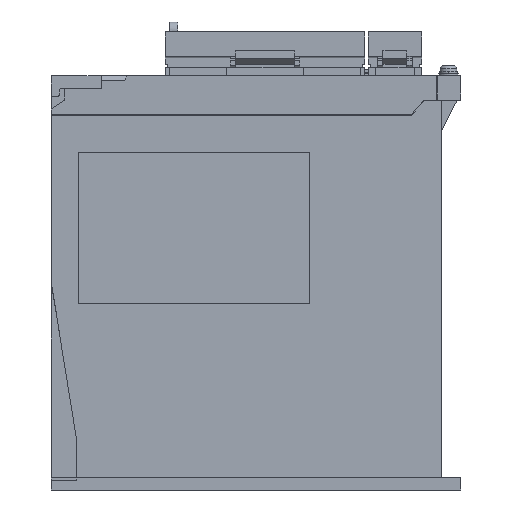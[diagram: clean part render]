
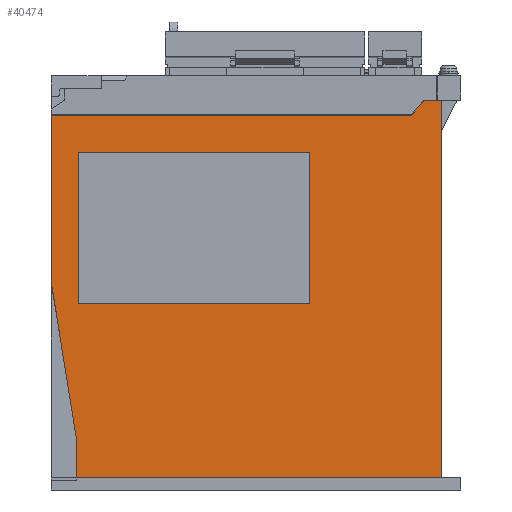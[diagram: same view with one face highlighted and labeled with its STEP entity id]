
A CAD part, left-side view. The second image highlights one B-rep face of the part: STEP entity #40474.
In plain terms, the highlighted planar face has unit normal (-1, 0, 0).
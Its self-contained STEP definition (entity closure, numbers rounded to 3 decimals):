
#10925=DIRECTION('',(0.,0.,1.));
#10926=VECTOR('',#10925,154.6);
#10927=CARTESIAN_POINT('',(0.,0.,5.2));
#10928=LINE('',#10927,#10926);
#11073=DIRECTION('',(0.,1.,0.));
#11074=VECTOR('',#11073,147.831);
#11075=CARTESIAN_POINT('',(0.,12.169,153.8));
#11076=LINE('',#11075,#11074);
#11401=DIRECTION('',(0.,1.,0.));
#11402=VECTOR('',#11401,149.5);
#11403=CARTESIAN_POINT('',(0.,0.,5.2));
#11404=LINE('',#11403,#11402);
#11405=DIRECTION('',(0.,0.,1.));
#11406=VECTOR('',#11405,14.8);
#11407=CARTESIAN_POINT('',(0.,149.5,5.2));
#11408=LINE('',#11407,#11406);
#11409=DIRECTION('',(0.,0.159,0.987));
#11410=VECTOR('',#11409,65.843);
#11411=CARTESIAN_POINT('',(0.,149.5,20.));
#11412=LINE('',#11411,#11410);
#11413=DIRECTION('',(0.,0.,1.));
#11414=VECTOR('',#11413,68.8);
#11415=CARTESIAN_POINT('',(0.,160.,85.));
#11416=LINE('',#11415,#11414);
#11417=DIRECTION('',(0.,-0.645,0.764));
#11418=VECTOR('',#11417,7.855);
#11419=CARTESIAN_POINT('',(0.,12.169,153.8));
#11420=LINE('',#11419,#11418);
#11421=DIRECTION('',(0.,-1.,0.));
#11422=VECTOR('',#11421,7.1);
#11423=CARTESIAN_POINT('',(0.,7.1,159.8));
#11424=LINE('',#11423,#11422);
#11425=DIRECTION('',(0.,-1.,0.));
#11426=VECTOR('',#11425,95.);
#11427=CARTESIAN_POINT('',(0.,149.,76.5));
#11428=LINE('',#11427,#11426);
#11501=DIRECTION('',(0.,0.,1.));
#11502=VECTOR('',#11501,62.);
#11503=CARTESIAN_POINT('',(0.,149.,76.5));
#11504=LINE('',#11503,#11502);
#11509=DIRECTION('',(0.,-1.,0.));
#11510=VECTOR('',#11509,95.);
#11511=CARTESIAN_POINT('',(0.,149.,138.5));
#11512=LINE('',#11511,#11510);
#11517=DIRECTION('',(0.,0.,-1.));
#11518=VECTOR('',#11517,62.);
#11519=CARTESIAN_POINT('',(0.,54.,138.5));
#11520=LINE('',#11519,#11518);
#15870=CARTESIAN_POINT('',(0.,0.,159.8));
#15871=VERTEX_POINT('',#15870);
#15872=CARTESIAN_POINT('',(0.,7.1,159.8));
#15873=VERTEX_POINT('',#15872);
#15879=CARTESIAN_POINT('',(0.,0.,5.2));
#15881=VERTEX_POINT('',#15879);
#15916=CARTESIAN_POINT('',(0.,149.5,5.2));
#15917=VERTEX_POINT('',#15916);
#15920=CARTESIAN_POINT('',(0.,149.5,20.));
#15921=VERTEX_POINT('',#15920);
#15946=CARTESIAN_POINT('',(0.,160.,153.8));
#15947=VERTEX_POINT('',#15946);
#15948=CARTESIAN_POINT('',(0.,160.,85.));
#15949=VERTEX_POINT('',#15948);
#15976=CARTESIAN_POINT('',(0.,12.169,153.8));
#15977=VERTEX_POINT('',#15976);
#16050=CARTESIAN_POINT('',(0.,149.,76.5));
#16051=CARTESIAN_POINT('',(0.,54.,76.5));
#16052=VERTEX_POINT('',#16050);
#16053=VERTEX_POINT('',#16051);
#16054=CARTESIAN_POINT('',(0.,54.,138.5));
#16055=VERTEX_POINT('',#16054);
#16056=CARTESIAN_POINT('',(0.,149.,138.5));
#16057=VERTEX_POINT('',#16056);
#40448=CARTESIAN_POINT('',(0.,160.,0.));
#40449=DIRECTION('',(-1.,0.,0.));
#40450=DIRECTION('',(0.,-1.,0.));
#40451=AXIS2_PLACEMENT_3D('',#40448,#40449,#40450);
#40452=PLANE('',#40451);
#40453=ORIENTED_EDGE('',*,*,#39394,.T.);
#40454=ORIENTED_EDGE('',*,*,#39414,.T.);
#40456=ORIENTED_EDGE('',*,*,#40455,.T.);
#40457=ORIENTED_EDGE('',*,*,#39544,.T.);
#40458=ORIENTED_EDGE('',*,*,#39740,.F.);
#40459=ORIENTED_EDGE('',*,*,#40440,.T.);
#40460=ORIENTED_EDGE('',*,*,#39279,.T.);
#40461=ORIENTED_EDGE('',*,*,#39325,.F.);
#40462=EDGE_LOOP('',(#40453,#40454,#40456,#40457,#40458,#40459,#40460,#40461));
#40463=FACE_OUTER_BOUND('',#40462,.F.);
#40465=ORIENTED_EDGE('',*,*,#40464,.T.);
#40467=ORIENTED_EDGE('',*,*,#40466,.F.);
#40469=ORIENTED_EDGE('',*,*,#40468,.F.);
#40471=ORIENTED_EDGE('',*,*,#40470,.F.);
#40472=EDGE_LOOP('',(#40465,#40467,#40469,#40471));
#40473=FACE_BOUND('',#40472,.F.);
#39279=EDGE_CURVE('',#15873,#15871,#11424,.T.);
#39325=EDGE_CURVE('',#15881,#15871,#10928,.T.);
#39394=EDGE_CURVE('',#15881,#15917,#11404,.T.);
#39414=EDGE_CURVE('',#15917,#15921,#11408,.T.);
#39544=EDGE_CURVE('',#15949,#15947,#11416,.T.);
#39740=EDGE_CURVE('',#15977,#15947,#11076,.T.);
#40440=EDGE_CURVE('',#15977,#15873,#11420,.T.);
#40455=EDGE_CURVE('',#15921,#15949,#11412,.T.);
#40464=EDGE_CURVE('',#16052,#16053,#11428,.T.);
#40466=EDGE_CURVE('',#16055,#16053,#11520,.T.);
#40468=EDGE_CURVE('',#16057,#16055,#11512,.T.);
#40470=EDGE_CURVE('',#16052,#16057,#11504,.T.);
#40474=ADVANCED_FACE('',(#40463,#40473),#40452,.T.);
